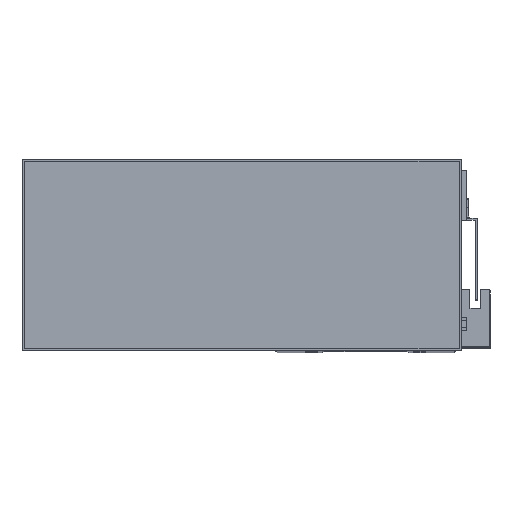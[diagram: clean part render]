
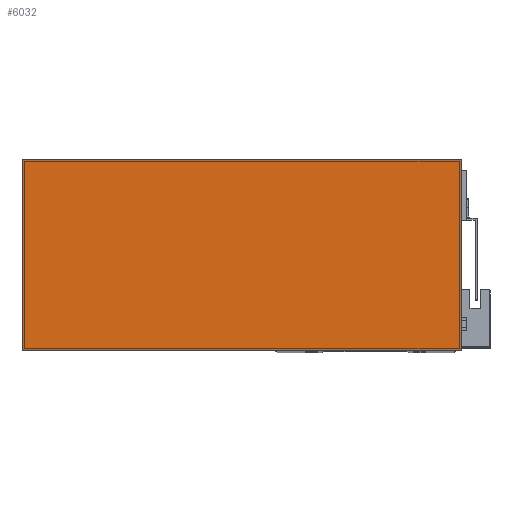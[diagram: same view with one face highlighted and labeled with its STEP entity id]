
A CAD part, top view. The second image highlights one B-rep face of the part: STEP entity #6032.
In plain terms, the highlighted planar face has unit normal (0, 0, 1).
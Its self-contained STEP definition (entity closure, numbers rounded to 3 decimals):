
#1542 = DIRECTION ( 'NONE',  ( 0., 0., 1. ) ) ;
#2035 = EDGE_LOOP ( 'NONE', ( #9249, #8934, #9075, #8788 ) ) ;
#2318 = FACE_OUTER_BOUND ( 'NONE', #2035, .T. ) ;
#2643 = VECTOR ( 'NONE', #22642, 1000. ) ;
#2777 = LINE ( 'NONE', #20947, #2643 ) ;
#2839 = DIRECTION ( 'NONE',  ( 0., -1., 0. ) ) ;
#3420 = CARTESIAN_POINT ( 'NONE',  ( 87., -1., 46. ) ) ;
#6032 = ADVANCED_FACE ( 'NONE', ( #2318 ), #15656, .T. ) ;
#7260 = EDGE_CURVE ( 'NONE', #19123, #15748, #19445, .T. ) ;
#7323 = LINE ( 'NONE', #7909, #13434 ) ;
#7909 = CARTESIAN_POINT ( 'NONE',  ( 87., 201., 46. ) ) ;
#8702 = CARTESIAN_POINT ( 'NONE',  ( 87., 201., 46. ) ) ;
#8788 = ORIENTED_EDGE ( 'NONE', *, *, #7260, .T. ) ;
#8934 = ORIENTED_EDGE ( 'NONE', *, *, #19155, .T. ) ;
#9075 = ORIENTED_EDGE ( 'NONE', *, *, #16957, .T. ) ;
#9249 = ORIENTED_EDGE ( 'NONE', *, *, #12790, .T. ) ;
#11254 = VERTEX_POINT ( 'NONE', #22715 ) ;
#12790 = EDGE_CURVE ( 'NONE', #15748, #11254, #13954, .T. ) ;
#13434 = VECTOR ( 'NONE', #20113, 1000. ) ;
#13843 = VECTOR ( 'NONE', #2839, 1000. ) ;
#13936 = DIRECTION ( 'NONE',  ( 1., 0., 0. ) ) ;
#13954 = LINE ( 'NONE', #15093, #13843 ) ;
#14692 = VERTEX_POINT ( 'NONE', #3420 ) ;
#15093 = CARTESIAN_POINT ( 'NONE',  ( -1., 201., 46. ) ) ;
#15656 = PLANE ( 'NONE',  #15862 ) ;
#15742 = CARTESIAN_POINT ( 'NONE',  ( -1., 201., 46. ) ) ;
#15748 = VERTEX_POINT ( 'NONE', #21299 ) ;
#15862 = AXIS2_PLACEMENT_3D ( 'NONE', #22495, #1542, #13936 ) ;
#16957 = EDGE_CURVE ( 'NONE', #14692, #19123, #7323, .T. ) ;
#19123 = VERTEX_POINT ( 'NONE', #8702 ) ;
#19155 = EDGE_CURVE ( 'NONE', #11254, #14692, #2777, .T. ) ;
#19372 = VECTOR ( 'NONE', #22515, 1000. ) ;
#19445 = LINE ( 'NONE', #15742, #19372 ) ;
#20113 = DIRECTION ( 'NONE',  ( 0., 1., 0. ) ) ;
#20947 = CARTESIAN_POINT ( 'NONE',  ( -1., -1., 46. ) ) ;
#21299 = CARTESIAN_POINT ( 'NONE',  ( -1., 201., 46. ) ) ;
#22495 = CARTESIAN_POINT ( 'NONE',  ( 0., 0., 46. ) ) ;
#22515 = DIRECTION ( 'NONE',  ( -1., 0., 0. ) ) ;
#22642 = DIRECTION ( 'NONE',  ( 1., 0., 0. ) ) ;
#22715 = CARTESIAN_POINT ( 'NONE',  ( -1., -1., 46. ) ) ;
